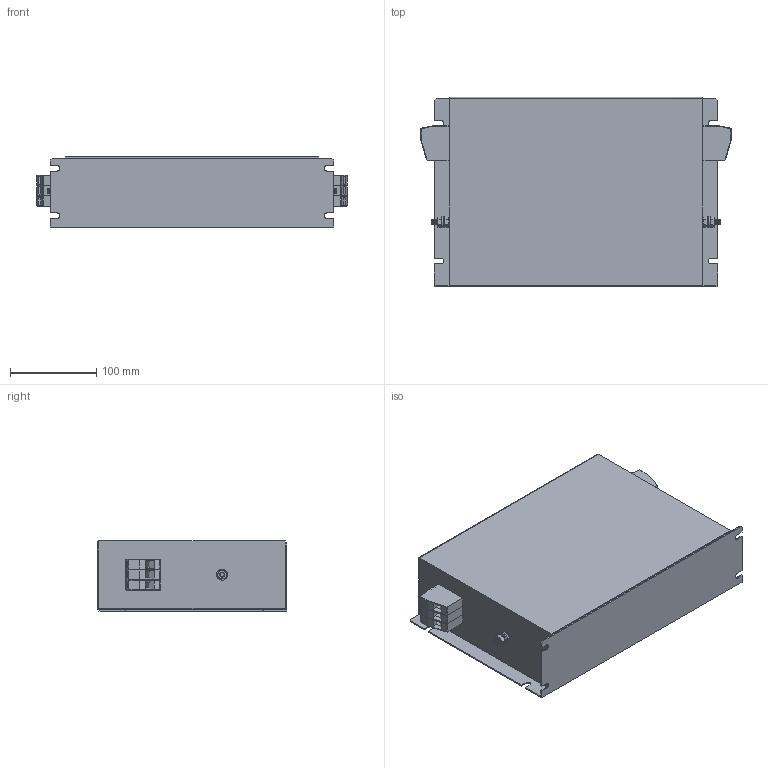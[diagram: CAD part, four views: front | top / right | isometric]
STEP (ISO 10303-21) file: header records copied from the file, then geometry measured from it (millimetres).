
FILE_DESCRIPTION (( 'STEP AP203' ), '1' );
FILE_NAME ('NF-R-55.STEP', '2021-03-11T18:10:35', ( '' ), ( '' ), 'SwSTEP 2.0', 'SolidWorks 2017', '' );
FILE_SCHEMA (( 'CONFIG_CONTROL_DESIGN' ));
Length unit declared in the file: millimetre
Products named in the file (7): NF-R-55; hex screw_am_B18.6.7M - M6 x 1.0 x 16 Indented HHMS --16S; HDFK-16; M6x16 Earth post; hex nut style 1_am_B18.2.4.1M - Hex nut, Style 1,  M6 x 1 --D-N; flat washer narrow_am_B18.22M - Plain washer, 6 mm, narrow
Assembly tree (13 placements, depth 3):
  NF-R-55
    NF-R-55
    M6x16 Earth post  x2
      flat washer narrow_am_B18.22M - Plain washer, 6 mm, narrow
      hex nut style 1_am_B18.2.4.1M - Hex nut, Style 1,  M6 x 1 --D-N
      hex screw_am_B18.6.7M - M6 x 1.0 x 16 Indented HHMS --16S
    HDFK-16  x6
Bounding box: 361.01 x 220 x 81.5 mm (x, y, z)
Volume: 5333670.7 mm3; surface area: 301142.3 mm2
Topology: 15 solids, 15 shells, 811 faces, 1913 edges, 1170 vertices
Faces by surface type: plane 471, cone 192, cylinder 146, sphere 2
Entity records: 9732 total; most frequent: CARTESIAN_POINT 1675, DIRECTION 1559, ORIENTED_EDGE 1454, EDGE_CURVE 727, AXIS2_PLACEMENT_3D 560, VERTEX_POINT 452, LINE 439, VECTOR 439
